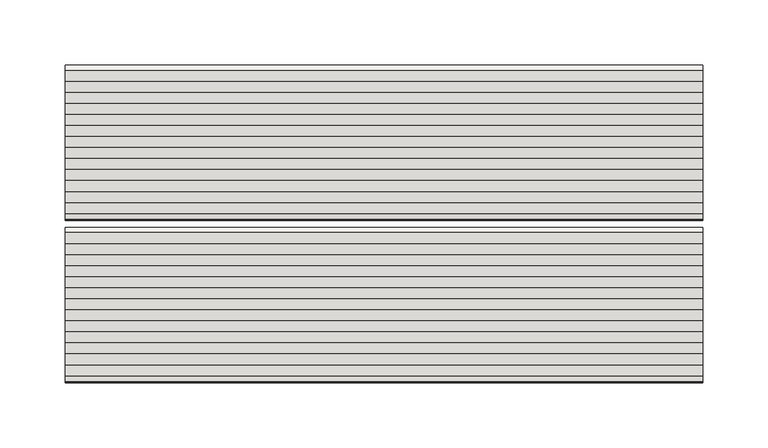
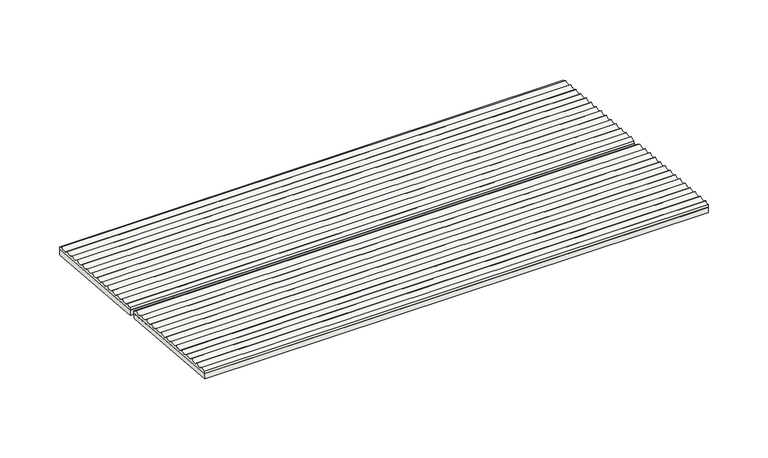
"""IFC4 building model written with IfcOpenShell, lengths in millimetres: slab geometry, ROSA GRES_001 (2 filas) : Piezas 001_Aqua_Blanco_Anti-Slip."""

from ifc_helpers import new_model, si_unit, point, frame, frame_2d, origin, place, context, project, spatial, polyline, circle_curve, trimmed, segment, composite_curve, outline, extrude, source, transform, mapped, element, save


def slab_1b1e1d0a(model_context):
    return source(origin(), model_context, "Body", "SweptSolid", [
        extrude(outline(polyline([(59.4997999, 0.0), (59.4997999, -488.9701973), (-59.4998, -488.9701973), (-59.4998, 0.0), (59.4997999, 0.0)])), frame((488.9701973, -183.3614376, 204.5238637), z_axis=(0.0, 0.08112705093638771, 0.9967037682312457), x_axis=(0.0, -0.9967037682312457, 0.08112705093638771)), (0.0, 0.0, 1.0), 5.0),
        extrude(outline(polyline([(59.4998, 0.0), (59.4998, -488.9701973), (-59.4997999, -488.9701973), (-59.4997999, 0.0), (59.4998, 0.0)])), frame((488.9701973, -307.9490099, 214.6647126), z_axis=(0.0, 0.08112705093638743, 0.9967037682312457), x_axis=(0.0, -0.9967037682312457, 0.08112705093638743)), (0.0, 0.0, 1.0), 5.0),
        extrude(outline(composite_curve([segment(polyline([(-242.2594772, 214.3344258), (-242.046278, 216.9537305)]), True, "CONTINUOUS"), segment(trimmed(circle_curve(frame_2d((-241.5926747, 222.5265709)), 5.5912705), [point((-242.046278, 216.9537305))], [point((-237.6514463, 218.5605875))], True, "CARTESIAN"), True, "CONTINUOUS"), segment(trimmed(circle_curve(frame_2d((-233.1207211, 221.8369933)), 5.5912705), [point((-237.6514463, 218.5605875))], [point((-229.1794928, 217.8710099))], True, "CARTESIAN"), True, "CONTINUOUS"), segment(trimmed(circle_curve(frame_2d((-224.6487676, 221.1474157)), 5.5912705), [point((-229.1794928, 217.8710099))], [point((-220.7075392, 217.1814322))], True, "CARTESIAN"), True, "CONTINUOUS"), segment(trimmed(circle_curve(frame_2d((-216.176814, 220.457838)), 5.5912705), [point((-220.7075392, 217.1814322))], [point((-212.2355856, 216.4918546))], True, "CARTESIAN"), True, "CONTINUOUS"), segment(trimmed(circle_curve(frame_2d((-207.7048605, 219.7682604)), 5.5912705), [point((-212.2355856, 216.4918546))], [point((-203.7636321, 215.802277))], True, "CARTESIAN"), True, "CONTINUOUS"), segment(trimmed(circle_curve(frame_2d((-199.2329069, 219.0786828)), 5.5912705), [point((-203.7636321, 215.802277))], [point((-195.2916785, 215.1126994))], True, "CARTESIAN"), True, "CONTINUOUS"), segment(trimmed(circle_curve(frame_2d((-190.7609534, 218.3891052)), 5.5912705), [point((-195.2916785, 215.1126994))], [point((-186.819725, 214.4231218))], True, "CARTESIAN"), True, "CONTINUOUS"), segment(trimmed(circle_curve(frame_2d((-182.2889998, 217.6995276)), 5.5912705), [point((-186.819725, 214.4231218))], [point((-178.3477714, 213.7335442))], True, "CARTESIAN"), True, "CONTINUOUS"), segment(trimmed(circle_curve(frame_2d((-173.8170463, 217.00995)), 5.5912705), [point((-178.3477714, 213.7335442))], [point((-169.8758179, 213.0439666))], True, "CARTESIAN"), True, "CONTINUOUS"), segment(trimmed(circle_curve(frame_2d((-165.3450927, 216.3203723)), 5.5912705), [point((-169.8758179, 213.0439666))], [point((-161.4038643, 212.3543889))], True, "CARTESIAN"), True, "CONTINUOUS"), segment(trimmed(circle_curve(frame_2d((-156.8731392, 215.6307947)), 5.5912705), [point((-161.4038643, 212.3543889))], [point((-152.9319108, 211.6648113))], True, "CARTESIAN"), True, "CONTINUOUS"), segment(trimmed(circle_curve(frame_2d((-148.4011856, 214.9412171)), 5.5912705), [point((-152.9319108, 211.6648113))], [point((-144.4599572, 210.9752337))], True, "CARTESIAN"), True, "CONTINUOUS"), segment(trimmed(circle_curve(frame_2d((-139.929232, 214.2516395)), 5.5912705), [point((-144.4599572, 210.9752337))], [point((-135.9880037, 210.2856561))], True, "CARTESIAN"), True, "CONTINUOUS"), segment(trimmed(circle_curve(frame_2d((-131.4572785, 213.5620619)), 5.5912705), [point((-135.9880037, 210.2856561))], [point((-127.5160501, 209.5960785))], True, "CARTESIAN"), True, "CONTINUOUS"), segment(trimmed(circle_curve(frame_2d((-122.9853249, 212.8724843)), 5.5912705), [point((-127.5160501, 209.5960785))], [point((-123.4389282, 207.2996439))], True, "CARTESIAN"), True, "CONTINUOUS"), segment(polyline([(-123.4389282, 207.2996439), (-123.6521274, 204.6803392), (-242.2594772, 214.3344258)]), True, "CONTINUOUS")], self_intersect=False)), frame((0.0, 0.0, 0.0), z_axis=(1.0, 0.0, 0.0), x_axis=(0.0, 1.0, 0.0)), (0.0, 0.0, 1.0), 488.9701973),
        extrude(outline(composite_curve([segment(polyline([(-366.8470495, 224.4752747), (-366.6338503, 227.0945794)]), True, "CONTINUOUS"), segment(trimmed(circle_curve(frame_2d((-366.180247, 232.6674198)), 5.5912705), [point((-366.6338503, 227.0945794))], [point((-362.2390187, 228.7014364))], True, "CARTESIAN"), True, "CONTINUOUS"), segment(trimmed(circle_curve(frame_2d((-357.7082935, 231.9778422)), 5.5912705), [point((-362.2390187, 228.7014364))], [point((-353.7670651, 228.0118588))], True, "CARTESIAN"), True, "CONTINUOUS"), segment(trimmed(circle_curve(frame_2d((-349.2363399, 231.2882646)), 5.5912705), [point((-353.7670651, 228.0118588))], [point((-345.2951115, 227.3222812))], True, "CARTESIAN"), True, "CONTINUOUS"), segment(trimmed(circle_curve(frame_2d((-340.7643864, 230.5986869)), 5.5912705), [point((-345.2951115, 227.3222812))], [point((-336.823158, 226.6327035))], True, "CARTESIAN"), True, "CONTINUOUS"), segment(trimmed(circle_curve(frame_2d((-332.2924328, 229.9091093)), 5.5912705), [point((-336.823158, 226.6327035))], [point((-328.3512044, 225.9431259))], True, "CARTESIAN"), True, "CONTINUOUS"), segment(trimmed(circle_curve(frame_2d((-323.8204793, 229.2195317)), 5.5912705), [point((-328.3512044, 225.9431259))], [point((-319.8792509, 225.2535483))], True, "CARTESIAN"), True, "CONTINUOUS"), segment(trimmed(circle_curve(frame_2d((-315.3485257, 228.5299541)), 5.5912705), [point((-319.8792509, 225.2535483))], [point((-311.4072973, 224.5639707))], True, "CARTESIAN"), True, "CONTINUOUS"), segment(trimmed(circle_curve(frame_2d((-306.8765722, 227.8403765)), 5.5912705), [point((-311.4072973, 224.5639707))], [point((-302.9353438, 223.8743931))], True, "CARTESIAN"), True, "CONTINUOUS"), segment(trimmed(circle_curve(frame_2d((-298.4046186, 227.1507989)), 5.5912705), [point((-302.9353438, 223.8743931))], [point((-294.4633902, 223.1848155))], True, "CARTESIAN"), True, "CONTINUOUS"), segment(trimmed(circle_curve(frame_2d((-289.9326651, 226.4612213)), 5.5912705), [point((-294.4633902, 223.1848155))], [point((-285.9914367, 222.4952379))], True, "CARTESIAN"), True, "CONTINUOUS"), segment(trimmed(circle_curve(frame_2d((-281.4607115, 225.7716436)), 5.5912705), [point((-285.9914367, 222.4952379))], [point((-277.5194831, 221.8056602))], True, "CARTESIAN"), True, "CONTINUOUS"), segment(trimmed(circle_curve(frame_2d((-272.9887579, 225.082066)), 5.5912705), [point((-277.5194831, 221.8056602))], [point((-269.0475296, 221.1160826))], True, "CARTESIAN"), True, "CONTINUOUS"), segment(trimmed(circle_curve(frame_2d((-264.5168044, 224.3924884)), 5.5912705), [point((-269.0475296, 221.1160826))], [point((-260.575576, 220.426505))], True, "CARTESIAN"), True, "CONTINUOUS"), segment(trimmed(circle_curve(frame_2d((-256.0448508, 223.7029108)), 5.5912705), [point((-260.575576, 220.426505))], [point((-252.1036225, 219.7369274))], True, "CARTESIAN"), True, "CONTINUOUS"), segment(trimmed(circle_curve(frame_2d((-247.5728973, 223.0133332)), 5.5912705), [point((-252.1036225, 219.7369274))], [point((-248.0265006, 217.4404928))], True, "CARTESIAN"), True, "CONTINUOUS"), segment(polyline([(-248.0265006, 217.4404928), (-248.2396998, 214.8211881), (-366.8470495, 224.4752747)]), True, "CONTINUOUS")], self_intersect=False)), frame((0.0, 0.0, 0.0), z_axis=(1.0, 0.0, 0.0), x_axis=(0.0, 1.0, 0.0)), (0.0, 0.0, 1.0), 488.9701973),
    ])


if __name__ == "__main__":
    model = new_model("IFC4")
    model_context = context("Model", 3, world=origin())
    ifc_project = project(units=[si_unit("LENGTHUNIT", "METRE", prefix="MILLI")], contexts=[model_context])
    site = spatial("IfcSite", under=ifc_project)
    building = spatial("IfcBuilding", under=site)
    placement = place(None, origin())
    slab_shape = slab_1b1e1d0a(model_context)
    element("IfcSlab", 1, ObjectType="ROSA GRES_001 (2 filas) : Piezas 001_Aqua_Blanco_Anti-Slip", at=placement, inside=building, context=model_context, shape_type="MappedRepresentation", body=[
        mapped(slab_shape, transform((0.0, 0.0, 0.0), x_axis=(1.0, 0.0, 0.0), y_axis=(0.0, 1.0, 0.0), z_axis=(0.0, 0.0, 1.0))),
    ])
    save(model, "model.ifc")
